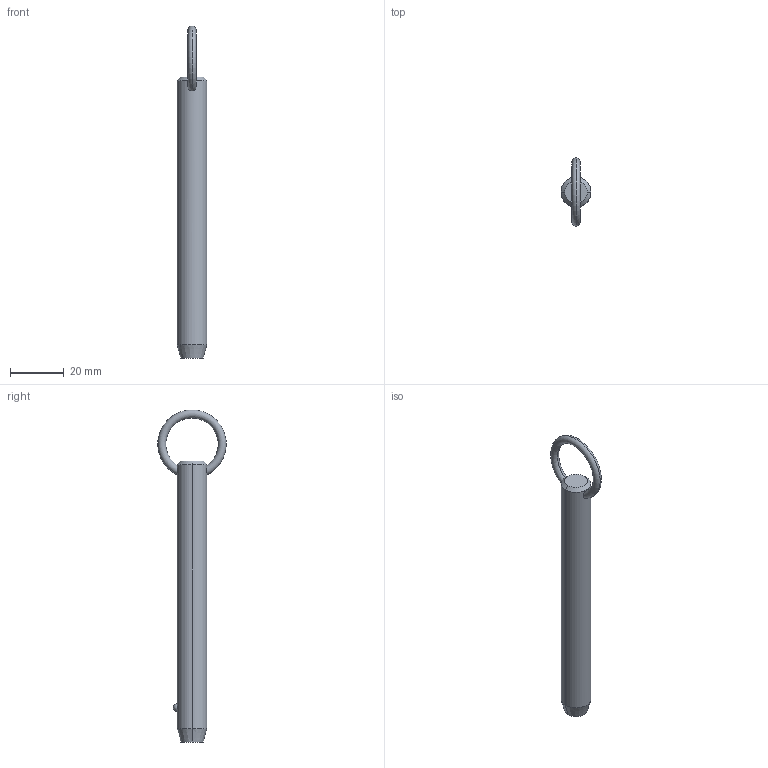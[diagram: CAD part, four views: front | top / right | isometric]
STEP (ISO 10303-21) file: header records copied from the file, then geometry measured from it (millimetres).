
FILE_DESCRIPTION (( 'STEP AP203' ), '1' );
FILE_NAME ('P1250.050-330.step', '2019-07-29T20:34:26', ( '' ), ( '' ), 'SwSTEP 2.0', 'SolidWorks 2017', '' );
FILE_SCHEMA (( 'CONFIG_CONTROL_DESIGN' ));
Length unit declared in the file: millimetre
Products named in the file (1): P1250.050-330
Bounding box: 11.1 x 25.32 x 123.35 mm (x, y, z)
Volume: 10385.4 mm3; surface area: 4293.2 mm2
Topology: 1 solids, 1 shells, 12 faces, 28 edges, 17 vertices
Faces by surface type: cone 4, torus 2, sphere 2, cylinder 2, plane 2
Entity records: 523 total; most frequent: CARTESIAN_POINT 190, DIRECTION 56, ORIENTED_EDGE 48, AXIS2_PLACEMENT_3D 25, EDGE_CURVE 24, EDGE_LOOP 15, VERTEX_POINT 15, ADVANCED_FACE 12
